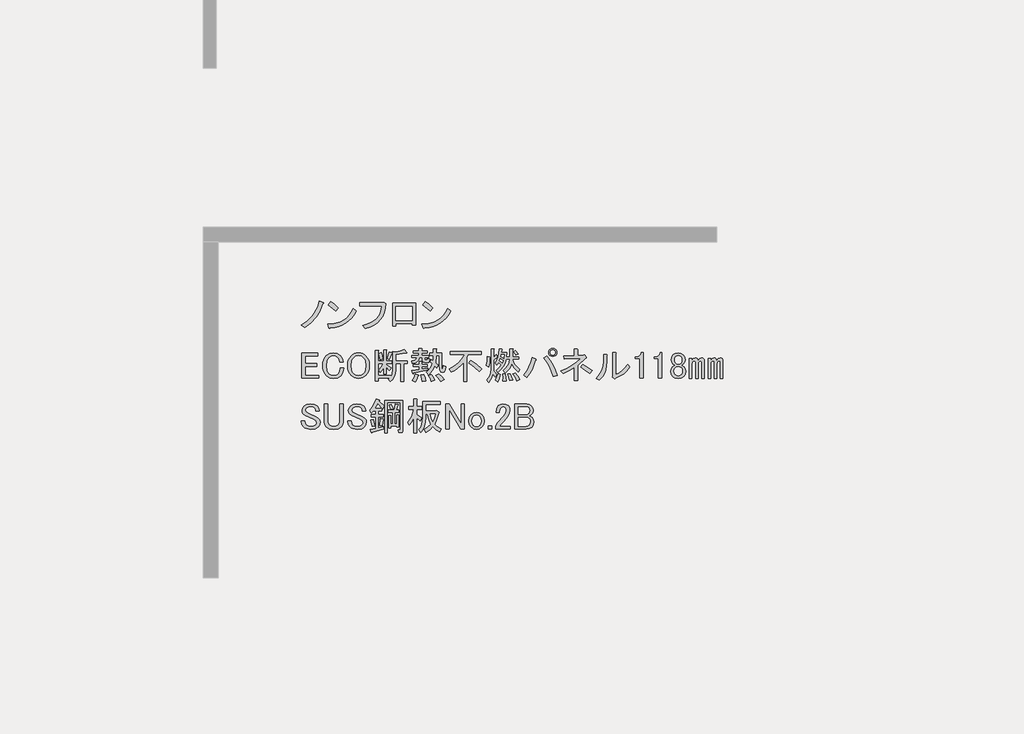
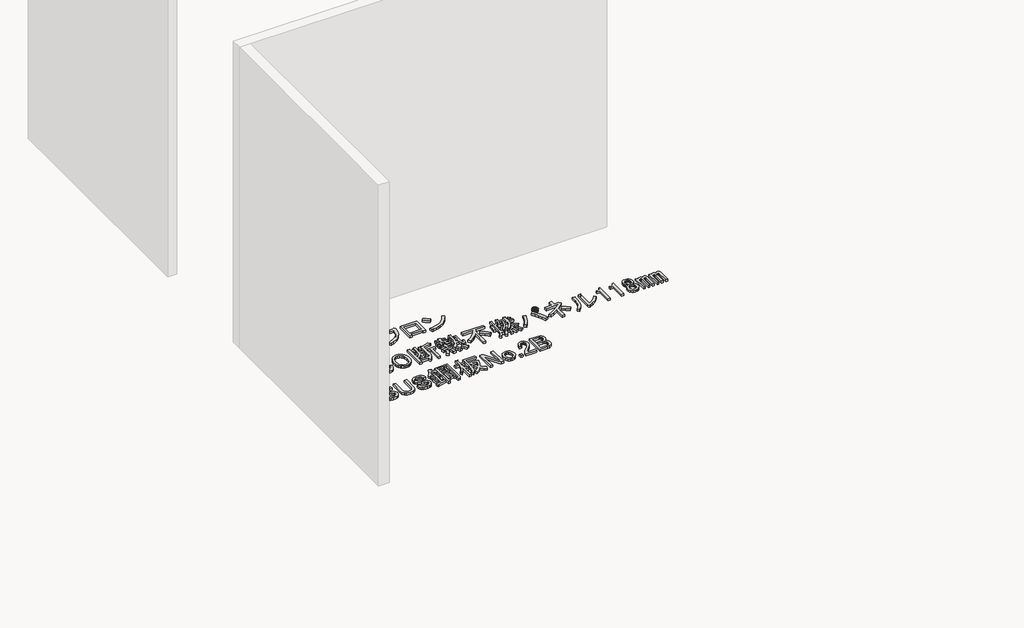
# One storey, part 57 of 117: 1 proxy.
"""IFC4 building model written with IfcOpenShell, lengths in millimetres."""

from ifc_helpers import new_model, si_unit, frame, origin, place, context, project, spatial, polyline, outline, extrude, element, save

model = new_model("IFC4")

# Units and contexts
model_context = context("Model", 3, world=origin())
ifc_project = project(units=[si_unit("LENGTHUNIT", "METRE", prefix="MILLI")], contexts=[model_context])

# Site, building, storey
site = spatial("IfcSite", under=ifc_project)
building = spatial("IfcBuilding", under=site)
storey = spatial("IfcBuildingStorey", under=building, Name="レベル 1", Elevation=500.0)

# Proxy
placement = place(None, origin())
element("IfcBuildingElementProxy", 1, Name="200㎜\u3000MS Pゴシック", ObjectType="200㎜\u3000MS Pゴシック", at=placement, inside=storey, context=model_context, shape_type="SweptSolid", body=[
    extrude(outline(polyline([(40940.1706985, -8603.5496882), (40914.5952502, -8663.3215225), (40886.146156, -8709.2998566), (40844.4782907, -8754.7034615), (40795.3389462, -8792.060858), (40767.7519457, -8770.2211493), (40815.4544673, -8739.7605029), (40855.1107805, -8701.2536481), (40872.4963381, -8677.3305462), (40887.8703435, -8649.2406577), (40901.2327969, -8616.9839827), (40912.5836981, -8580.5605212), (40943.6190736, -8594.3540214), (40946.7800841, -8598.9518548), (40940.1706985, -8603.5496882)])), frame((0.0, 0.0, 500.0), z_axis=(0.0, 0.0, 1.0), x_axis=(1.0, 0.0, 0.0)), (0.0, 0.0, 1.0), 25.0),
    extrude(outline(polyline([(41039.8977052, -8658.7236891), (40981.2753292, -8611.5958967), (41000.8161212, -8587.4572713), (41028.1157571, -8607.2854279), (41061.7374138, -8636.8839804), (41039.8977052, -8658.7236891)])), frame((0.0, 0.0, 500.0), z_axis=(0.0, 0.0, 1.0), x_axis=(1.0, 0.0, 0.0)), (0.0, 0.0, 1.0), 25.0),
    extrude(outline(polyline([(41201.9713328, -8658.7236891), (41185.447869, -8688.465924), (41166.3381239, -8714.4724192), (41144.6420975, -8736.7431748), (41120.3597898, -8755.2781907), (41093.4912008, -8770.077467), (41064.0363306, -8781.1410036), (41031.995179, -8788.4688006), (40997.3677461, -8792.060858), (40991.6204544, -8800.1070664), (40985.8731626, -8794.3597747), (40976.6774958, -8764.4738575), (41012.5082679, -8761.7977748), (41045.2857912, -8755.4937141), (41075.0100658, -8745.5616756), (41101.6810916, -8732.0016591), (41125.2988687, -8714.8136646), (41145.863397, -8693.9976923), (41163.3746766, -8669.553742), (41177.8327074, -8641.4818138), (41201.9713328, -8658.7236891)])), frame((0.0, 0.0, 500.0), z_axis=(0.0, 0.0, 1.0), x_axis=(1.0, 0.0, 0.0)), (0.0, 0.0, 1.0), 25.0),
    extrude(outline(polyline([(41252.7314136, -8773.6695243), (41286.514713, -8763.9889298), (41316.0234641, -8751.6142922), (41341.257667, -8736.5456116), (41362.2173217, -8718.782888), (41378.902428, -8698.3261214), (41391.3129862, -8675.1753118), (41399.4489961, -8649.3304591), (41403.3104577, -8620.7915635), (41230.8917049, -8620.7915635), (41230.8917049, -8595.5034798), (41405.6093744, -8595.5034798), (41421.7017914, -8592.0551047), (41434.3458332, -8603.5496882), (41430.825617, -8640.0449909), (41422.5638851, -8673.0919185), (41409.5606375, -8702.6904711), (41391.8158742, -8728.8406486), (41369.3295952, -8751.542451), (41342.1018005, -8770.7958784), (41310.1324901, -8786.6009308), (41273.421664, -8798.9576081), (41252.7314136, -8773.6695243)])), frame((0.0, 0.0, 500.0), z_axis=(0.0, 0.0, 1.0), x_axis=(1.0, 0.0, 0.0)), (0.0, 0.0, 1.0), 25.0),
    extrude(outline(polyline([(41667.455987, -8772.520066), (41641.0184449, -8772.520066), (41641.0184449, -8759.8760241), (41513.4285679, -8759.8760241), (41513.4285679, -8778.2673577), (41486.9910258, -8778.2673577), (41486.9910258, -8598.9518548), (41667.455987, -8598.9518548), (41667.455987, -8772.520066)]), holes=[polyline([(41513.4285679, -8624.2399386), (41513.4285679, -8734.5879404), (41641.0184449, -8734.5879404), (41641.0184449, -8624.2399386), (41513.4285679, -8624.2399386)])]), frame((0.0, 0.0, 500.0), z_axis=(0.0, 0.0, 1.0), x_axis=(1.0, 0.0, 0.0)), (0.0, 0.0, 1.0), 25.0),
    extrude(outline(polyline([(41943.5099049, -8658.7236891), (41926.9864411, -8688.465924), (41907.876696, -8714.4724192), (41886.1806696, -8736.7431748), (41861.8983619, -8755.2781907), (41835.0297729, -8770.077467), (41805.5749026, -8781.1410036), (41773.5337511, -8788.4688006), (41738.9063182, -8792.060858), (41733.1590264, -8800.1070664), (41727.4117347, -8794.3597747), (41718.2160679, -8764.4738575), (41754.0468399, -8761.7977748), (41786.8243633, -8755.4937141), (41816.5486378, -8745.5616756), (41843.2196637, -8732.0016591), (41866.8374407, -8714.8136646), (41887.4019691, -8693.9976923), (41904.9132486, -8669.553742), (41919.3712795, -8641.4818138), (41943.5099049, -8658.7236891)])), frame((0.0, 0.0, 500.0), z_axis=(0.0, 0.0, 1.0), x_axis=(1.0, 0.0, 0.0)), (0.0, 0.0, 1.0), 25.0),
    extrude(outline(polyline([(41781.4362772, -8658.7236891), (41722.8139013, -8611.5958967), (41742.3546933, -8587.4572713), (41769.6543291, -8607.2854279), (41803.2759859, -8636.8839804), (41781.4362772, -8658.7236891)])), frame((0.0, 0.0, 500.0), z_axis=(0.0, 0.0, 1.0), x_axis=(1.0, 0.0, 0.0)), (0.0, 0.0, 1.0), 25.0),
    extrude(outline(polyline([(40773.4992375, -8992.0551047), (40899.9396562, -8992.0551047), (40899.9396562, -9013.8948134), (40799.9367796, -9013.8948134), (40799.9367796, -9074.816106), (40893.0429061, -9074.816106), (40893.0429061, -9096.6558147), (40799.9367796, -9096.6558147), (40799.9367796, -9166.7727742), (40905.686948, -9166.7727742), (40905.686948, -9188.6124829), (40773.4992375, -9188.6124829), (40773.4992375, -8992.0551047)])), frame((0.0, 0.0, 500.0), z_axis=(0.0, 0.0, 1.0), x_axis=(1.0, 0.0, 0.0)), (0.0, 0.0, 1.0), 25.0),
    extrude(outline(polyline([(40937.7798252, -9090.908523), (40939.5758538, -9066.985421), (40944.9639399, -9045.7922827), (40953.9440832, -9027.3291079), (40966.516284, -9011.5958967), (40991.5170031, -8995.2161152), (41022.8397432, -8989.756188), (41053.5877541, -8994.641386), (41076.8642858, -9009.29698), (41092.6693381, -9032.8608762), (41098.7039944, -9062.1720642), (41071.116994, -9062.1720642), (41066.231796, -9040.9070847), (41056.1740354, -9025.3893969), (41040.9437123, -9015.0442717), (41022.8397432, -9011.5958967), (41003.2989512, -9015.6190009), (40986.0570759, -9027.6883136), (40977.0050914, -9039.3984206), (40970.5393882, -9053.8384911), (40965.3668256, -9090.908523), (40970.5393882, -9127.9785548), (40977.0050914, -9142.4186254), (40986.0570759, -9154.1287323), (41002.7242221, -9165.3359513), (41022.8397432, -9169.0716909), (41043.242629, -9165.9106804), (41058.4729521, -9156.427649), (41070.5422648, -9136.8868571), (41074.5653691, -9110.449315), (41102.1523695, -9110.449315), (41095.8303486, -9145.2204301), (41088.7899162, -9159.3731361), (41079.1632025, -9171.3706076), (41068.3151893, -9179.9197041), (41055.3119417, -9186.0262016), (41022.8397432, -9190.9113996), (40991.5170031, -9185.4514724), (40966.516284, -9169.0716909), (40953.9440832, -9153.4103209), (40944.9639399, -9135.1626695), (40939.5758538, -9114.3287369), (40937.7798252, -9090.908523)])), frame((0.0, 0.0, 500.0), z_axis=(0.0, 0.0, 1.0), x_axis=(1.0, 0.0, 0.0)), (0.0, 0.0, 1.0), 25.0),
    extrude(outline(polyline([(41133.1417667, -9089.7590646), (41134.8659542, -9066.9135799), (41140.0385168, -9046.6543764), (41148.6594544, -9028.9814543), (41160.7287671, -9013.8948134), (41173.4446501, -9003.3341648), (41187.4536738, -8995.7908443), (41202.7558381, -8991.2648521), (41219.3511431, -8989.756188), (41235.946448, -8991.2648521), (41251.2486123, -8995.7908443), (41265.257636, -9003.3341648), (41277.973519, -9013.8948134), (41290.0428317, -9028.9814543), (41298.6637694, -9046.6543764), (41303.836332, -9066.9135799), (41305.5605195, -9089.7590646), (41303.836332, -9112.6045494), (41298.6637694, -9132.8637528), (41290.0428317, -9150.536675), (41277.973519, -9165.6233159), (41265.257636, -9176.1839645), (41251.2486123, -9183.7272849), (41235.946448, -9188.2532772), (41219.3511431, -9189.7619413), (41202.7558381, -9188.2532772), (41187.4536738, -9183.7272849), (41173.4446501, -9176.1839645), (41160.7287671, -9165.6233159), (41148.6594544, -9150.536675), (41140.0385168, -9132.8637528), (41134.8659542, -9112.6045494), (41133.1417667, -9089.7590646)]), holes=[polyline([(41219.3511431, -9011.5958967), (41198.6608927, -9015.9063655), (41180.2695591, -9028.837772), (41171.7204626, -9039.9731498), (41165.6139651, -9053.8384911), (41160.7287671, -9089.7590646), (41165.6139651, -9125.6796381), (41171.7204626, -9139.5449795), (41180.2695591, -9150.6803573), (41198.6608927, -9163.6117637), (41219.3511431, -9167.9222326), (41240.0413934, -9163.6117637), (41258.432727, -9150.6803573), (41266.9818235, -9139.5449795), (41273.088321, -9125.6796381), (41277.973519, -9089.7590646), (41273.088321, -9053.8384911), (41266.9818235, -9039.9731498), (41258.432727, -9028.837772), (41240.0413934, -9015.9063655), (41219.3511431, -9011.5958967)])]), frame((0.0, 0.0, 500.0), z_axis=(0.0, 0.0, 1.0), x_axis=(1.0, 0.0, 0.0)), (0.0, 0.0, 1.0), 25.0),
    extrude(outline(polyline([(41444.3691101, -9035.7345221), (41461.6109854, -8982.8594379), (41482.3012357, -8988.6067296), (41484.0254232, -8991.7677401), (41480.002319, -8994.3540214), (41462.7604437, -9042.6312722), (41444.3691101, -9035.7345221)])), frame((0.0, 0.0, 500.0), z_axis=(0.0, 0.0, 1.0), x_axis=(1.0, 0.0, 0.0)), (0.0, 0.0, 1.0), 25.0),
    extrude(outline(polyline([(41598.3965292, -8987.4572713), (41596.6723417, -8992.0551047), (41589.2008624, -8989.756188), (41512.1871528, -9002.4002299), (41512.1871528, -9051.826939), (41604.143821, -9051.826939), (41604.143821, -9073.6666477), (41573.1084455, -9073.6666477), (41573.1084455, -9213.9005666), (41550.1192785, -9213.9005666), (41550.1192785, -9073.6666477), (41512.1871528, -9073.6666477), (41512.1871528, -9123.0933568), (41509.6008716, -9150.8958807), (41501.8420277, -9175.6810764), (41488.9106212, -9197.448944), (41470.8066522, -9216.1994833), (41453.5647769, -9196.6586914), (41463.9099021, -9187.4630245), (41374.2521506, -9187.4630245), (41374.2521506, -9209.3027332), (41351.2629836, -9209.3027332), (41351.2629836, -8970.215396), (41373.1026922, -8970.215396), (41377.9878902, -8972.5143127), (41374.2521506, -8977.1121461), (41374.2521506, -9052.9763974), (41416.7821096, -9052.9763974), (41416.7821096, -8965.6175626), (41435.1734433, -8965.6175626), (41440.0586413, -8967.9164793), (41436.3229016, -8972.5143127), (41436.3229016, -9052.9763974), (41480.002319, -9052.9763974), (41480.002319, -9071.367731), (41436.3229016, -9071.367731), (41436.3229016, -9080.5633978), (41476.5539439, -9107.0009399), (41462.7604437, -9128.8406486), (41436.3229016, -9102.4031065), (41436.3229016, -9155.2781907), (41416.7821096, -9155.2781907), (41416.7821096, -9107.0009399), (41403.5633386, -9126.8290965), (41389.1951092, -9142.6341488), (41376.5510673, -9124.2428152), (41398.390776, -9100.1041898), (41415.6326513, -9071.367731), (41374.2521506, -9071.367731), (41374.2521506, -9165.6233159), (41471.9561105, -9165.6233159), (41471.9561105, -9179.4168161), (41484.887517, -9155.2781907), (41489.1979858, -9121.9438985), (41489.1979858, -8977.1121461), (41511.0376945, -8982.8594379), (41547.2456326, -8975.3879586), (41577.7062789, -8962.1691875), (41598.3965292, -8987.4572713)])), frame((0.0, 0.0, 500.0), z_axis=(0.0, 0.0, 1.0), x_axis=(1.0, 0.0, 0.0)), (0.0, 0.0, 1.0), 25.0),
    extrude(outline(polyline([(41390.3445675, -9043.7807305), (41377.7005257, -8993.2045631), (41397.2413176, -8986.3078129), (41405.0001615, -9010.4464383), (41409.8853595, -9036.8839804), (41390.3445675, -9043.7807305)])), frame((0.0, 0.0, 500.0), z_axis=(0.0, 0.0, 1.0), x_axis=(1.0, 0.0, 0.0)), (0.0, 0.0, 1.0), 25.0),
    extrude(outline(polyline([(41734.0326148, -9159.8760241), (41744.0903754, -9187.17566), (41748.9755734, -9209.3027332), (41720.2391146, -9215.050025), (41717.6528333, -9193.4976809), (41709.8939894, -9163.3243992), (41734.0326148, -9159.8760241)])), frame((0.0, 0.0, 500.0), z_axis=(0.0, 0.0, 1.0), x_axis=(1.0, 0.0, 0.0)), (0.0, 0.0, 1.0), 25.0),
    extrude(outline(polyline([(41790.356074, -9212.7511083), (41782.022501, -9188.0377537), (41768.5163654, -9166.7727742), (41789.2066157, -9158.7265657), (41806.1611264, -9180.2789098), (41817.9430745, -9203.5554415), (41790.356074, -9212.7511083)])), frame((0.0, 0.0, 500.0), z_axis=(0.0, 0.0, 1.0), x_axis=(1.0, 0.0, 0.0)), (0.0, 0.0, 1.0), 25.0),
    extrude(outline(polyline([(41689.2037391, -9164.4738575), (41692.6521141, -9169.3590555), (41686.9048224, -9172.520066), (41677.1344264, -9198.0955143), (41666.214572, -9217.3489417), (41643.225405, -9205.8543582), (41655.8694469, -9182.290462), (41666.214572, -9155.2781907), (41689.2037391, -9164.4738575)])), frame((0.0, 0.0, 500.0), z_axis=(0.0, 0.0, 1.0), x_axis=(1.0, 0.0, 0.0)), (0.0, 0.0, 1.0), 25.0),
    extrude(outline(polyline([(41721.3885729, -9027.6883136), (41696.1004892, -9027.6883136), (41691.5026558, -9045.1457123), (41681.1575306, -9058.4363245), (41665.0651137, -9067.5601502), (41643.225405, -9072.5171893), (41638.6275716, -9052.9763974), (41663.9156553, -9044.3554597), (41671.3871346, -9037.0276627), (41675.4102388, -9027.6883136), (41639.7770299, -9027.6883136), (41639.7770299, -9009.29698), (41693.8015725, -9009.29698), (41693.8015725, -8992.0551047), (41650.1221551, -8992.0551047), (41650.1221551, -8973.6637711), (41693.8015725, -8973.6637711), (41693.8015725, -8955.2724374), (41715.6412812, -8955.2724374), (41720.5264792, -8957.5713541), (41716.7907395, -8962.1691875), (41716.7907395, -8973.6637711), (41759.3206985, -8973.6637711), (41759.3206985, -8992.0551047), (41716.7907395, -8992.0551047), (41716.7907395, -9009.29698), (41769.6658237, -9009.29698), (41769.6658237, -9027.6883136), (41740.9293649, -9027.6883136), (41740.9293649, -9040.3323555), (41742.3661878, -9045.5049181), (41746.6766567, -9047.2291056), (41757.0217818, -9047.2291056), (41760.7575215, -9044.0680951), (41760.4701569, -9034.5850637), (41780.0109489, -9036.8839804), (41777.137303, -9058.4363245), (41771.8210581, -9063.8244106), (41763.9185319, -9065.6204392), (41739.7799066, -9065.6204392), (41725.9864063, -9060.7352412), (41721.3885729, -9046.0796472), (41721.3885729, -9027.6883136)])), frame((0.0, 0.0, 500.0), z_axis=(0.0, 0.0, 1.0), x_axis=(1.0, 0.0, 0.0)), (0.0, 0.0, 1.0), 25.0),
    extrude(outline(polyline([(41852.4268251, -9010.4464383), (41830.5871164, -9010.4464383), (41825.989283, -9067.9193559), (41845.5300749, -9086.3106896), (41835.1849498, -9108.1503983), (41819.0925328, -9092.0579813), (41799.8391054, -9129.7027424), (41769.6658237, -9162.1749408), (41752.4239484, -9141.4846905), (41767.5105893, -9129.5590601), (41780.585678, -9114.4724192), (41791.6492147, -9096.2247679), (41800.7011992, -9074.816106), (41783.4593239, -9059.8731475), (41791.5055324, -9042.6312722), (41805.2990326, -9052.9763974), (41807.5979493, -9010.4464383), (41780.0109489, -9010.4464383), (41780.0109489, -8992.0551047), (41807.5979493, -8992.0551047), (41807.5979493, -8957.5713541), (41829.437658, -8957.5713541), (41834.322856, -8959.8702708), (41830.5871164, -8964.4681043), (41830.5871164, -8992.0551047), (41871.967617, -8992.0551047), (41871.967617, -9088.6096063), (41875.4159921, -9112.7482317), (41878.6488437, -9114.7597838), (41881.4506484, -9111.5987733), (41885.7611173, -9089.7590646), (41905.3019092, -9096.6558147), (41900.775917, -9123.4525626), (41892.945232, -9139.4731384), (41881.8098542, -9144.7175421), (41867.3697836, -9139.1857738), (41860.8322393, -9131.8579768), (41856.1625647, -9120.219711), (41852.4268251, -9084.0117729), (41852.4268251, -9010.4464383)])), frame((0.0, 0.0, 500.0), z_axis=(0.0, 0.0, 1.0), x_axis=(1.0, 0.0, 0.0)), (0.0, 0.0, 1.0), 25.0),
    extrude(outline(polyline([(41651.2716134, -9149.5308989), (41649.2600613, -9154.4160969), (41645.5243217, -9152.979274), (41639.7770299, -9128.8406486), (41694.9510308, -9120.7944401), (41694.9510308, -9097.8052731), (41651.2716134, -9097.8052731), (41651.2716134, -9079.4139395), (41694.9510308, -9079.4139395), (41694.9510308, -9056.4247724), (41713.3423645, -9056.4247724), (41718.2275625, -9058.7236891), (41714.4918228, -9063.3215225), (41714.4918228, -9079.4139395), (41759.3206985, -9079.4139395), (41759.3206985, -9097.8052731), (41714.4918228, -9097.8052731), (41714.4918228, -9117.3460651), (41765.0679903, -9108.1503983), (41765.0679903, -9124.2428152), (41651.2716134, -9149.5308989)])), frame((0.0, 0.0, 500.0), z_axis=(0.0, 0.0, 1.0), x_axis=(1.0, 0.0, 0.0)), (0.0, 0.0, 1.0), 25.0),
    extrude(outline(polyline([(41848.97845, -9154.1287323), (41873.6918046, -9175.3937119), (41892.6578674, -9200.1070664), (41866.2203253, -9215.050025), (41846.9668979, -9185.4514724), (41828.2881997, -9165.6233159), (41848.97845, -9154.1287323)])), frame((0.0, 0.0, 500.0), z_axis=(0.0, 0.0, 1.0), x_axis=(1.0, 0.0, 0.0)), (0.0, 0.0, 1.0), 25.0),
    extrude(outline(polyline([(42167.3784135, -9138.0363154), (42128.2968295, -9099.8168252), (42086.9163289, -9070.2182726), (42103.0087458, -9049.5280223), (42146.6881632, -9077.6897519), (42188.0686638, -9116.1966067), (42167.3784135, -9138.0363154)])), frame((0.0, 0.0, 500.0), z_axis=(0.0, 0.0, 1.0), x_axis=(1.0, 0.0, 0.0)), (0.0, 0.0, 1.0), 25.0),
    extrude(outline(polyline([(41940.9351182, -8977.1121461), (42182.3213721, -8977.1121461), (42182.3213721, -9002.4002299), (42082.3184955, -9002.4002299), (42071.9733703, -9026.5388553), (42071.9733703, -9212.7511083), (42045.5358282, -9212.7511083), (42045.5358282, -9065.6204392), (42024.7018956, -9088.8969709), (42001.2816816, -9109.2998566), (41975.2751864, -9126.8290965), (41946.6824099, -9141.4846905), (41930.589993, -9115.0471484), (41970.174465, -9094.6442626), (42003.8679629, -9069.0688143), (42031.6704868, -9038.3208034), (42053.5820367, -9002.4002299), (41940.9351182, -9002.4002299), (41940.9351182, -8977.1121461)])), frame((0.0, 0.0, 500.0), z_axis=(0.0, 0.0, 1.0), x_axis=(1.0, 0.0, 0.0)), (0.0, 0.0, 1.0), 25.0),
    extrude(outline(polyline([(42354.7401249, -9211.6016499), (42355.3148541, -9184.5893787), (42352.4412082, -9156.427649), (42371.9820002, -9155.2781907), (42378.3040211, -9181.4283682), (42378.8787503, -9209.3027332), (42354.7401249, -9211.6016499)])), frame((0.0, 0.0, 500.0), z_axis=(0.0, 0.0, 1.0), x_axis=(1.0, 0.0, 0.0)), (0.0, 0.0, 1.0), 25.0),
    extrude(outline(polyline([(42335.1993329, -9159.8760241), (42326.5783953, -9190.3366704), (42312.2101659, -9217.3489417), (42292.6693739, -9204.7048998), (42306.7502387, -9179.9915453), (42316.8079993, -9151.8298156), (42335.1993329, -9159.8760241)])), frame((0.0, 0.0, 500.0), z_axis=(0.0, 0.0, 1.0), x_axis=(1.0, 0.0, 0.0)), (0.0, 0.0, 1.0), 25.0),
    extrude(outline(polyline([(42250.1394149, -9021.9410219), (42254.7372483, -9024.2399386), (42250.1394149, -9028.837772), (42248.9899565, -9068.4940851), (42243.2426647, -9102.4031065), (42224.8513311, -9089.7590646), (42230.5986229, -9055.2753141), (42231.7480812, -9018.4926468), (42250.1394149, -9021.9410219)])), frame((0.0, 0.0, 500.0), z_axis=(0.0, 0.0, 1.0), x_axis=(1.0, 0.0, 0.0)), (0.0, 0.0, 1.0), 25.0),
    extrude(outline(polyline([(42301.8650407, -9003.5496882), (42311.0607075, -9020.7915635), (42312.4975305, -9026.8262199), (42307.6123325, -9026.5388553), (42281.1747904, -9047.2291056), (42281.1747904, -9131.1395653), (42294.9682906, -9143.4962426), (42306.4628741, -9159.8760241), (42293.8188322, -9180.5662744), (42275.4274986, -9155.2781907), (42263.6455505, -9191.1987642), (42242.0932064, -9220.7973168), (42227.1502478, -9202.4059831), (42242.2368887, -9183.6554438), (42253.0130607, -9163.0370346), (42259.478764, -9140.5507556), (42261.6339984, -9116.1966067), (42261.6339984, -8958.7208125), (42280.025332, -8958.7208125), (42284.91053, -8961.0197292), (42281.1747904, -8965.6175626), (42281.1747904, -9024.2399386), (42301.8650407, -9003.5496882)])), frame((0.0, 0.0, 500.0), z_axis=(0.0, 0.0, 1.0), x_axis=(1.0, 0.0, 0.0)), (0.0, 0.0, 1.0), 25.0),
    extrude(outline(polyline([(42452.4440848, -8972.5143127), (42474.2837935, -8996.6529381), (42457.0419182, -9008.1475216), (42450.4325327, -8996.6529381), (42437.5011262, -8982.8594379), (42452.4440848, -8972.5143127)])), frame((0.0, 0.0, 500.0), z_axis=(0.0, 0.0, 1.0), x_axis=(1.0, 0.0, 0.0)), (0.0, 0.0, 1.0), 25.0),
    extrude(outline(polyline([(42462.78921, -9209.3027332), (42449.5704389, -9181.1410036), (42432.9032928, -9156.427649), (42451.2946265, -9148.3814406), (42470.2606893, -9171.3706076), (42485.778377, -9198.9576081), (42462.78921, -9209.3027332)])), frame((0.0, 0.0, 500.0), z_axis=(0.0, 0.0, 1.0), x_axis=(1.0, 0.0, 0.0)), (0.0, 0.0, 1.0), 25.0),
    extrude(outline(polyline([(42413.3625008, -9154.1287323), (42431.7538345, -9203.5554415), (42407.6152091, -9208.1532749), (42393.8217089, -9157.5771074), (42413.3625008, -9154.1287323)])), frame((0.0, 0.0, 500.0), z_axis=(0.0, 0.0, 1.0), x_axis=(1.0, 0.0, 0.0)), (0.0, 0.0, 1.0), 25.0),
    extrude(outline(polyline([(42474.2837935, -9139.1857738), (42443.5357826, -9108.7251274), (42422.5581677, -9074.816106), (42414.1527535, -9096.9431793), (42402.7300111, -9116.1966067), (42388.2899405, -9132.5763882), (42370.8325418, -9146.0825239), (42357.0390416, -9127.6911902), (42377.8729742, -9108.7969686), (42393.2469797, -9087.7475125), (42403.161058, -9064.542822), (42407.6152091, -9039.1828971), (42378.8787503, -9039.1828971), (42370.904383, -9069.7872258), (42357.3264062, -9097.2305439), (42338.1448199, -9121.5128516), (42313.3596242, -9142.6341488), (42300.7155823, -9126.5417319), (42326.5783953, -9104.9893878), (42342.096083, -9084.0117729), (42320.2563743, -9064.4709809), (42306.4628741, -9085.1612312), (42292.6693739, -9070.2182726), (42305.0978923, -9051.1803687), (42314.7964472, -9026.2514907), (42321.7650384, -8995.4316386), (42326.0036661, -8958.7208125), (42346.6939164, -8961.0197292), (42350.1422915, -8963.6060105), (42344.3949997, -8966.767021), (42342.096083, -8985.1583546), (42385.7755004, -8985.1583546), (42382.3271253, -9020.7915635), (42407.6152091, -9020.7915635), (42407.6152091, -8958.7208125), (42429.4549178, -8958.7208125), (42434.3401158, -8961.0197292), (42430.6043761, -8965.6175626), (42430.6043761, -9020.7915635), (42480.0310853, -9020.7915635), (42480.0310853, -9039.1828971), (42430.6043761, -9039.1828971), (42437.1419205, -9060.9507647), (42448.7083452, -9081.4254916), (42465.3036501, -9100.6070778), (42486.9278354, -9118.4955234), (42474.2837935, -9139.1857738)]), holes=[polyline([(42350.1422915, -9069.0688143), (42357.0390416, -9049.5280223), (42331.7509579, -9033.4356054), (42326.0036661, -9050.6774807), (42350.1422915, -9069.0688143)]), polyline([(42339.7971663, -9003.5496882), (42336.3487913, -9019.6421052), (42361.636875, -9033.4356054), (42366.2347084, -9003.5496882), (42339.7971663, -9003.5496882)])]), frame((0.0, 0.0, 500.0), z_axis=(0.0, 0.0, 1.0), x_axis=(1.0, 0.0, 0.0)), (0.0, 0.0, 1.0), 25.0),
    extrude(outline(polyline([(42699.5776305, -9012.745355), (42726.230696, -9049.4561812), (42748.7169751, -9087.1727833), (42767.0364675, -9125.8951616), (42781.1891735, -9165.6233159), (42750.153798, -9175.968441), (42734.7079514, -9132.8637528), (42717.1068704, -9094.356898), (42697.3505549, -9060.4478766), (42675.4390051, -9031.1366887), (42699.5776305, -9012.745355)])), frame((0.0, 0.0, 500.0), z_axis=(0.0, 0.0, 1.0), x_axis=(1.0, 0.0, 0.0)), (0.0, 0.0, 1.0), 25.0),
    extrude(outline(polyline([(42612.2187958, -9039.1828971), (42616.2419, -9044.6428243), (42609.919879, -9049.5280223), (42597.9942486, -9084.9457078), (42582.9076078, -9118.782888), (42564.6599564, -9151.039563), (42543.2512946, -9181.7157328), (42516.8137525, -9164.4738575), (42540.018443, -9133.0074351), (42559.056347, -9099.5294606), (42573.9274644, -9064.039934), (42584.6317953, -9026.5388553), (42612.2187958, -9039.1828971)])), frame((0.0, 0.0, 500.0), z_axis=(0.0, 0.0, 1.0), x_axis=(1.0, 0.0, 0.0)), (0.0, 0.0, 1.0), 25.0),
    extrude(outline(polyline([(42745.5559646, -9018.4926468), (42732.9119227, -9016.1937301), (42722.5667975, -9009.29698), (42715.6700474, -8998.9518548), (42713.3711307, -8986.3078129), (42715.6700474, -8973.6637711), (42722.5667975, -8963.3186459), (42732.9119227, -8956.4218958), (42745.5559646, -8954.1229791), (42758.2000065, -8956.4218958), (42768.5451316, -8963.3186459), (42775.4418817, -8973.6637711), (42777.7407984, -8986.3078129), (42775.4418817, -8998.9518548), (42768.5451316, -9009.29698), (42758.2000065, -9016.1937301), (42745.5559646, -9018.4926468)]), holes=[polyline([(42745.5559646, -9006.9980633), (42753.8895376, -9005.5612403), (42760.4989232, -9001.2507715), (42764.809392, -8994.641386), (42766.2462149, -8986.3078129), (42764.809392, -8977.9742399), (42760.4989232, -8971.3648544), (42753.8895376, -8967.0543855), (42745.5559646, -8965.6175626), (42737.2223915, -8967.0543855), (42730.613006, -8971.3648544), (42726.3025372, -8977.9742399), (42724.8657143, -8986.3078129), (42726.3025372, -8994.641386), (42730.613006, -9001.2507715), (42737.2223915, -9005.5612403), (42745.5559646, -9006.9980633)])]), frame((0.0, 0.0, 500.0), z_axis=(0.0, 0.0, 1.0), x_axis=(1.0, 0.0, 0.0)), (0.0, 0.0, 1.0), 25.0),
    extrude(outline(polyline([(42989.2411352, -9008.1475216), (42996.1378853, -9005.8486049), (43008.7819272, -9023.0904802), (43009.9313856, -9029.1251366), (43004.1840938, -9031.1366887), (42940.9638844, -9087.4601479), (42940.9638844, -9208.1532749), (42914.5263423, -9208.1532749), (42914.5263423, -9105.8514816), (42874.2953, -9129.9901069), (42829.4664243, -9151.8298156), (42809.9256323, -9131.1395653), (42855.4729195, -9111.6706145), (42896.7097379, -9088.8969709), (42933.6360874, -9062.8186345), (42966.2519682, -9033.4356054), (42836.3631744, -9039.1828971), (42832.9147993, -9013.8948134), (42914.5263423, -9011.5958967), (42914.5263423, -8959.8702708), (42937.5155094, -8959.8702708), (42943.5501657, -8963.3186459), (42940.9638844, -8969.0659377), (42940.9638844, -9010.4464383), (42989.2411352, -9008.1475216)])), frame((0.0, 0.0, 500.0), z_axis=(0.0, 0.0, 1.0), x_axis=(1.0, 0.0, 0.0)), (0.0, 0.0, 1.0), 25.0),
    extrude(outline(polyline([(43035.2194693, -9151.8298156), (42998.1494375, -9122.5186277), (42965.1025098, -9101.2536481), (42982.3443851, -9079.4139395), (43021.1386045, -9102.6904711), (43054.7602613, -9128.8406486), (43035.2194693, -9151.8298156)])), frame((0.0, 0.0, 500.0), z_axis=(0.0, 0.0, 1.0), x_axis=(1.0, 0.0, 0.0)), (0.0, 0.0, 1.0), 25.0),
    extrude(outline(polyline([(43242.2139293, -9158.7265657), (43266.9991251, -9146.5135708), (43290.7785447, -9129.4153778), (43313.5521883, -9107.4319868), (43335.3200559, -9080.5633978), (43351.4124728, -9102.4031065), (43328.1359412, -9130.2056304), (43301.9857636, -9153.8413678), (43272.9619403, -9173.3103186), (43241.064471, -9188.6124829), (43231.8688042, -9193.2103163), (43213.4774705, -9179.4168161), (43215.7763872, -9173.6695243), (43215.7763872, -8988.6067296), (43239.9150126, -8988.6067296), (43245.6623044, -8992.0551047), (43242.2139293, -8997.8023965), (43242.2139293, -9158.7265657)])), frame((0.0, 0.0, 500.0), z_axis=(0.0, 0.0, 1.0), x_axis=(1.0, 0.0, 0.0)), (0.0, 0.0, 1.0), 25.0),
    extrude(outline(polyline([(43088.1865102, -9189.7619413), (43113.3309116, -9160.5225944), (43131.2911984, -9127.9785548), (43142.0673704, -9092.1298225), (43145.6594278, -9052.9763974), (43145.6594278, -9001.2507715), (43169.7980532, -9001.2507715), (43175.5453449, -9004.6991466), (43172.0969699, -9010.4464383), (43172.0969699, -9051.826939), (43168.2893891, -9097.5897496), (43156.8666467, -9138.32368), (43137.8287427, -9174.0287301), (43111.1756772, -9204.7048998), (43088.1865102, -9189.7619413)])), frame((0.0, 0.0, 500.0), z_axis=(0.0, 0.0, 1.0), x_axis=(1.0, 0.0, 0.0)), (0.0, 0.0, 1.0), 25.0),
    extrude(outline(polyline([(43430.7250991, -9011.5958967), (43438.7713075, -9000.6760423), (43442.2196826, -8988.6067296), (43456.0131828, -8988.6067296), (43456.0131828, -9187.4630245), (43429.5756407, -9187.4630245), (43429.5756407, -9034.5850637), (43395.0918902, -9034.5850637), (43395.0918902, -9020.7915635), (43405.4370153, -9020.7915635), (43419.8052447, -9018.4926468), (43430.7250991, -9011.5958967)])), frame((0.0, 0.0, 500.0), z_axis=(0.0, 0.0, 1.0), x_axis=(1.0, 0.0, 0.0)), (0.0, 0.0, 1.0), 25.0),
    extrude(outline(polyline([(43577.8557681, -9011.5958967), (43585.9019766, -9000.6760423), (43589.3503517, -8988.6067296), (43603.1438519, -8988.6067296), (43603.1438519, -9187.4630245), (43576.7063098, -9187.4630245), (43576.7063098, -9034.5850637), (43542.2225592, -9034.5850637), (43542.2225592, -9020.7915635), (43552.5676844, -9020.7915635), (43566.9359138, -9018.4926468), (43577.8557681, -9011.5958967)])), frame((0.0, 0.0, 500.0), z_axis=(0.0, 0.0, 1.0), x_axis=(1.0, 0.0, 0.0)), (0.0, 0.0, 1.0), 25.0),
    extrude(outline(polyline([(43677.8586448, -9044.9301889), (43681.881749, -9021.9410219), (43693.9510617, -9003.5496882), (43710.3308432, -8993.2045631), (43731.8831873, -8989.756188), (43753.722896, -8993.4919276), (43770.9647713, -9004.6991466), (43782.1719902, -9022.2283864), (43785.9077299, -9044.9301889), (43782.4593548, -9063.0341579), (43772.1142296, -9078.2644811), (43758.3207294, -9086.3106896), (43758.3207294, -9088.6096063), (43768.37849, -9092.6327105), (43777.8615214, -9100.1041898), (43788.2066466, -9116.1966067), (43791.6550216, -9136.8868571), (43787.6319174, -9158.1518366), (43775.5626047, -9175.968441), (43757.1712711, -9187.17566), (43731.8831873, -9190.9113996), (43706.5951036, -9187.17566), (43688.2037699, -9175.968441), (43676.1344572, -9158.1518366), (43672.111353, -9136.8868571), (43675.5597281, -9116.1966067), (43685.9048532, -9100.1041898), (43695.3878846, -9092.6327105), (43705.4456452, -9088.6096063), (43705.4456452, -9086.3106896), (43690.5026866, -9075.9655644), (43681.0196552, -9061.8846996), (43677.8586448, -9044.9301889)]), holes=[polyline([(43731.8831873, -9010.4464383), (43721.2506976, -9012.4579905), (43712.3423953, -9018.4926468), (43705.4456452, -9029.6998657), (43703.1467285, -9044.9301889), (43705.4456452, -9059.2984183), (43712.3423953, -9070.2182726), (43720.963333, -9076.252929), (43730.733729, -9078.2644811), (43742.8030417, -9076.5402936), (43751.4239793, -9071.367731), (43758.3207294, -9060.1605121), (43760.6196461, -9044.9301889), (43758.3207294, -9029.6998657), (43751.4239793, -9018.4926468), (43742.5156771, -9012.4579905), (43731.8831873, -9010.4464383)]), polyline([(43731.8831873, -9097.8052731), (43718.3770517, -9100.1041898), (43707.7445619, -9107.0009399), (43700.8478118, -9118.2081588), (43698.5488951, -9133.438482), (43701.1351764, -9148.9561698), (43708.8940203, -9161.0254825), (43719.2391454, -9167.9222326), (43731.8831873, -9170.2211493), (43744.5272292, -9167.9222326), (43754.8723544, -9161.0254825), (43762.6311982, -9148.9561698), (43765.2174795, -9133.438482), (43762.6311982, -9117.9207942), (43754.8723544, -9105.8514816), (43745.1019584, -9099.8168252), (43731.8831873, -9097.8052731)])]), frame((0.0, 0.0, 500.0), z_axis=(0.0, 0.0, 1.0), x_axis=(1.0, 0.0, 0.0)), (0.0, 0.0, 1.0), 25.0),
    extrude(outline(polyline([(43839.9322724, -9189.7619413), (43820.3914804, -9189.7619413), (43820.3914804, -9032.286147), (43839.9322724, -9032.286147), (43839.9322724, -9049.5280223), (43852.0015851, -9034.0103346), (43865.2203561, -9028.837772), (43874.416023, -9030.2745949), (43881.3127731, -9034.5850637), (43888.2095232, -9048.378564), (43901.1409296, -9033.72297), (43914.6470653, -9028.837772), (43922.9806383, -9030.2745949), (43929.5900239, -9034.5850637), (43934.7625864, -9043.2060014), (43936.486774, -9055.2753141), (43936.486774, -9189.7619413), (43916.945982, -9189.7619413), (43916.945982, -9065.6204392), (43914.3597007, -9056.1374078), (43906.6008568, -9052.9763974), (43896.2557317, -9057.5742308), (43890.2210753, -9066.1951684), (43888.2095232, -9075.9655644), (43888.2095232, -9189.7619413), (43868.6687312, -9189.7619413), (43868.6687312, -9065.6204392), (43866.0824499, -9056.1374078), (43858.323606, -9052.9763974), (43847.9784809, -9057.5742308), (43841.9438245, -9066.1951684), (43839.9322724, -9075.9655644), (43839.9322724, -9189.7619413)])), frame((0.0, 0.0, 500.0), z_axis=(0.0, 0.0, 1.0), x_axis=(1.0, 0.0, 0.0)), (0.0, 0.0, 1.0), 25.0),
    extrude(outline(polyline([(44061.7777343, -9028.837772), (44070.1113074, -9030.2745949), (44076.7206929, -9034.5850637), (44081.8932555, -9043.2060014), (44083.617443, -9055.2753141), (44083.617443, -9189.7619413), (44064.0766511, -9189.7619413), (44064.0766511, -9065.6204392), (44061.4903698, -9056.1374078), (44053.7315259, -9052.9763974), (44043.3864007, -9057.5742308), (44037.3517444, -9066.1951684), (44035.3401922, -9075.9655644), (44035.3401922, -9189.7619413), (44015.7994003, -9189.7619413), (44015.7994003, -9065.6204392), (44013.213119, -9056.1374078), (44005.4542751, -9052.9763974), (43995.1091499, -9057.5742308), (43989.0744936, -9066.1951684), (43987.0629415, -9075.9655644), (43987.0629415, -9189.7619413), (43967.5221495, -9189.7619413), (43967.5221495, -9032.286147), (43987.0629415, -9032.286147), (43987.0629415, -9049.5280223), (43999.1322542, -9034.0103346), (44012.3510252, -9028.837772), (44021.546692, -9030.2745949), (44028.4434421, -9034.5850637), (44035.3401922, -9048.378564), (44048.2715987, -9033.72297), (44061.7777343, -9028.837772)])), frame((0.0, 0.0, 500.0), z_axis=(0.0, 0.0, 1.0), x_axis=(1.0, 0.0, 0.0)), (0.0, 0.0, 1.0), 25.0),
    extrude(outline(polyline([(40775.7981542, -9443.7807305), (40779.8212584, -9423.3778448), (40791.8905711, -9405.8486049), (40812.2934569, -9393.7792922), (40841.3172803, -9389.756188), (40872.6400204, -9394.3540214), (40895.3418228, -9408.1475216), (40907.4111355, -9425.6767615), (40911.4342397, -9446.0796472), (40884.9966976, -9446.0796472), (40882.6977809, -9433.4356054), (40875.8010308, -9423.0904802), (40862.5822598, -9415.3316363), (40843.616197, -9412.745355), (40823.2133112, -9415.0442717), (40810.2819048, -9421.9410219), (40804.2472484, -9430.5619595), (40802.2356963, -9440.3323555), (40806.8335297, -9455.2753141), (40827.52378, -9466.7698976), (40887.2956143, -9493.2074397), (40904.5374896, -9504.7020232), (40914.020521, -9518.4955234), (40917.1815315, -9534.5879404), (40913.1584273, -9555.8529199), (40901.0891146, -9573.6695243), (40891.1031951, -9581.2128448), (40878.3873121, -9586.6009308), (40844.7656553, -9590.9113996), (40811.1439985, -9585.738837), (40797.5660217, -9579.2731338), (40786.1432794, -9570.2211493), (40774.9360604, -9551.8298156), (40771.2003208, -9526.5417319), (40797.6378629, -9526.5417319), (40799.9367796, -9544.3583363), (40806.8335297, -9556.427649), (40822.9259466, -9565.9106804), (40845.9151137, -9569.0716909), (40866.8927286, -9566.198045), (40881.5483226, -9557.5771074), (40888.4450727, -9548.3814406), (40890.7439894, -9539.1857738), (40889.0198019, -9529.7027424), (40883.8472393, -9521.9438985), (40865.4559057, -9510.449315), (40835.5699885, -9496.6558147), (40802.2356963, -9481.7128562), (40786.1432794, -9471.367731), (40778.3844355, -9459.2984183), (40775.7981542, -9443.7807305)])), frame((0.0, 0.0, 500.0), z_axis=(0.0, 0.0, 1.0), x_axis=(1.0, 0.0, 0.0)), (0.0, 0.0, 1.0), 25.0),
    extrude(outline(polyline([(40951.2054987, -9392.0551047), (40977.6430408, -9392.0551047), (40977.6430408, -9529.9901069), (40980.2293221, -9544.6457009), (40987.988166, -9556.427649), (41003.5058537, -9565.9106804), (41024.7708332, -9569.0716909), (41046.0358128, -9565.9106804), (41061.5535005, -9556.427649), (41069.3123444, -9544.6457009), (41071.8986257, -9529.9901069), (41071.8986257, -9392.0551047), (41098.3361678, -9392.0551047), (41098.3361678, -9531.1395653), (41094.3130635, -9554.1287323), (41082.2437508, -9572.520066), (41071.7549434, -9580.5662744), (41058.6798546, -9586.3135662), (41024.7708332, -9590.9113996), (40990.8618119, -9586.3135662), (40977.7867231, -9580.5662744), (40967.2979156, -9572.520066), (40955.2286029, -9554.1287323), (40951.2054987, -9531.1395653), (40951.2054987, -9392.0551047)])), frame((0.0, 0.0, 500.0), z_axis=(0.0, 0.0, 1.0), x_axis=(1.0, 0.0, 0.0)), (0.0, 0.0, 1.0), 25.0),
    extrude(outline(polyline([(41140.6822135, -9443.7807305), (41144.7053177, -9423.3778448), (41156.7746304, -9405.8486049), (41177.1775161, -9393.7792922), (41206.2013395, -9389.756188), (41237.5240796, -9394.3540214), (41260.2258821, -9408.1475216), (41272.2951948, -9425.6767615), (41276.318299, -9446.0796472), (41249.8807569, -9446.0796472), (41247.5818402, -9433.4356054), (41240.6850901, -9423.0904802), (41227.466319, -9415.3316363), (41208.5002562, -9412.745355), (41188.0973705, -9415.0442717), (41175.165964, -9421.9410219), (41169.1313077, -9430.5619595), (41167.1197556, -9440.3323555), (41171.717589, -9455.2753141), (41192.4078393, -9466.7698976), (41252.1796736, -9493.2074397), (41269.4215489, -9504.7020232), (41278.9045803, -9518.4955234), (41282.0655908, -9534.5879404), (41278.0424865, -9555.8529199), (41265.9731738, -9573.6695243), (41255.9872544, -9581.2128448), (41243.2713714, -9586.6009308), (41209.6497146, -9590.9113996), (41176.0280578, -9585.738837), (41162.450081, -9579.2731338), (41151.0273386, -9570.2211493), (41139.8201197, -9551.8298156), (41136.0843801, -9526.5417319), (41162.5219222, -9526.5417319), (41164.8208389, -9544.3583363), (41171.717589, -9556.427649), (41187.8100059, -9565.9106804), (41210.7991729, -9569.0716909), (41231.7767879, -9566.198045), (41246.4323819, -9557.5771074), (41253.329132, -9548.3814406), (41255.6280487, -9539.1857738), (41253.9038611, -9529.7027424), (41248.7312986, -9521.9438985), (41230.3399649, -9510.449315), (41200.4540478, -9496.6558147), (41167.1197556, -9481.7128562), (41151.0273386, -9471.367731), (41143.2684948, -9459.2984183), (41140.6822135, -9443.7807305)])), frame((0.0, 0.0, 500.0), z_axis=(0.0, 0.0, 1.0), x_axis=(1.0, 0.0, 0.0)), (0.0, 0.0, 1.0), 25.0),
    extrude(outline(polyline([(41478.1631856, -9394.3540214), (41485.3473003, -9409.5843446), (41490.8072275, -9429.9872303), (41473.5653522, -9435.7345221), (41462.0707687, -9398.9518548), (41478.1631856, -9394.3540214)])), frame((0.0, 0.0, 500.0), z_axis=(0.0, 0.0, 1.0), x_axis=(1.0, 0.0, 0.0)), (0.0, 0.0, 1.0), 25.0),
    extrude(outline(polyline([(41531.0382698, -9395.5034798), (41533.6245511, -9398.9518548), (41527.5898948, -9402.4002299), (41514.9458529, -9440.3323555), (41535.6361032, -9440.3323555), (41535.6361032, -9458.7236891), (41504.6007277, -9458.7236891), (41504.6007277, -9547.2319822), (41519.5436863, -9547.2319822), (41519.5436863, -9479.4139395), (41535.6361032, -9479.4139395), (41535.6361032, -9573.6695243), (41519.5436863, -9573.6695243), (41519.5436863, -9565.6233159), (41473.5653522, -9565.6233159), (41473.5653522, -9578.2673577), (41457.4729353, -9578.2673577), (41457.4729353, -9481.7128562), (41473.5653522, -9481.7128562), (41473.5653522, -9547.2319822), (41488.5083108, -9547.2319822), (41488.5083108, -9458.7236891), (41452.8751019, -9458.7236891), (41452.8751019, -9440.3323555), (41498.853436, -9440.3323555), (41509.1985611, -9390.9056463), (41531.0382698, -9395.5034798)])), frame((0.0, 0.0, 500.0), z_axis=(0.0, 0.0, 1.0), x_axis=(1.0, 0.0, 0.0)), (0.0, 0.0, 1.0), 25.0),
    extrude(outline(polyline([(41425.2881014, -9362.1691875), (41565.5220204, -9362.1691875), (41565.5220204, -9602.4059831), (41561.7862807, -9613.6132021), (41550.5790618, -9617.3489417), (41534.4866449, -9617.3489417), (41529.8888115, -9595.509233), (41541.383395, -9595.509233), (41544.83177, -9594.3597747), (41545.9812284, -9590.9113996), (41545.9812284, -9380.5605212), (41444.8288934, -9380.5605212), (41444.8288934, -9619.6478584), (41425.2881014, -9619.6478584), (41425.2881014, -9362.1691875)])), frame((0.0, 0.0, 500.0), z_axis=(0.0, 0.0, 1.0), x_axis=(1.0, 0.0, 0.0)), (0.0, 0.0, 1.0), 25.0),
    extrude(outline(polyline([(41413.7935179, -9510.449315), (41416.3797992, -9513.6103254), (41412.6440596, -9516.1966067), (41404.5978511, -9563.3243992), (41386.2065175, -9561.0254825), (41391.9538092, -9507.0009399), (41413.7935179, -9510.449315)])), frame((0.0, 0.0, 500.0), z_axis=(0.0, 0.0, 1.0), x_axis=(1.0, 0.0, 0.0)), (0.0, 0.0, 1.0), 25.0),
    extrude(outline(polyline([(41336.7798083, -9511.5987733), (41348.2743918, -9563.3243992), (41327.5841415, -9569.0716909), (41316.089558, -9517.3460651), (41336.7798083, -9511.5987733)])), frame((0.0, 0.0, 500.0), z_axis=(0.0, 0.0, 1.0), x_axis=(1.0, 0.0, 0.0)), (0.0, 0.0, 1.0), 25.0),
    extrude(outline(polyline([(41410.3451429, -9431.1366887), (41368.9646422, -9387.4572713), (41347.1249335, -9426.5388553), (41402.2989344, -9426.5388553), (41402.2989344, -9444.9301889), (41375.8613923, -9444.9301889), (41375.8613923, -9473.6666477), (41413.7935179, -9473.6666477), (41413.7935179, -9492.0579813), (41375.8613923, -9492.0579813), (41375.8613923, -9579.4168161), (41414.9429763, -9569.0716909), (41417.241893, -9588.6124829), (41325.2852248, -9613.9005666), (41322.9863081, -9619.6478584), (41318.3884747, -9616.1994833), (41311.4917246, -9593.2103163), (41356.3206003, -9584.0146495), (41356.3206003, -9492.0579813), (41318.3884747, -9492.0579813), (41318.3884747, -9473.6666477), (41356.3206003, -9473.6666477), (41356.3206003, -9444.9301889), (41334.4808916, -9444.9301889), (41319.537933, -9463.3215225), (41306.8938912, -9442.6312722), (41335.0556208, -9404.9865112), (41359.7689754, -9354.1229791), (41381.6086841, -9359.8702708), (41385.0570591, -9363.6060105), (41379.3097674, -9365.6175626), (41378.160309, -9369.0659377), (41422.9891847, -9406.9980633), (41410.3451429, -9431.1366887)])), frame((0.0, 0.0, 500.0), z_axis=(0.0, 0.0, 1.0), x_axis=(1.0, 0.0, 0.0)), (0.0, 0.0, 1.0), 25.0),
    extrude(outline(polyline([(41736.7913148, -9590.9113996), (41765.5277736, -9573.6695243), (41787.3674823, -9551.8298156), (41769.5508779, -9509.8745858), (41759.7804819, -9469.0688143), (41747.13644, -9469.0688143), (41747.13644, -9493.2074397), (41744.693841, -9534.9471461), (41737.366044, -9569.3590555), (41725.153049, -9596.4431679), (41708.054856, -9616.1994833), (41694.2613558, -9593.2103163), (41707.3364446, -9575.8247587), (41716.6757937, -9553.5540032), (41722.2794031, -9526.3980496), (41724.147273, -9494.356898), (41724.147273, -9373.6637711), (41860.9328169, -9373.6637711), (41860.9328169, -9395.5034798), (41747.13644, -9395.5034798), (41747.13644, -9447.2291056), (41826.4490663, -9447.2291056), (41832.1963581, -9441.4818138), (41851.73715, -9455.2753141), (41853.173973, -9459.0110537), (41848.288775, -9463.3215225), (41835.9320977, -9509.8745858), (41817.2533995, -9550.6803573), (41836.2194623, -9569.0716909), (41867.829567, -9587.4630245), (41858.6339002, -9611.6016499), (41830.7595351, -9595.509233), (41802.3104409, -9570.2211493), (41777.8844509, -9594.6471392), (41745.9869817, -9615.050025), (41736.7913148, -9590.9113996)]), holes=[polyline([(41781.6201906, -9469.0688143), (41789.666399, -9502.1157419), (41802.3104409, -9529.9901069), (41814.9544828, -9503.8399294), (41823.0006912, -9469.0688143), (41781.6201906, -9469.0688143)])]), frame((0.0, 0.0, 500.0), z_axis=(0.0, 0.0, 1.0), x_axis=(1.0, 0.0, 0.0)), (0.0, 0.0, 1.0), 25.0),
    extrude(outline(polyline([(41654.0303135, -9619.6478584), (41654.0303135, -9500.1041898), (41636.213709, -9534.3005758), (41617.2476462, -9556.427649), (41605.7530627, -9535.7373987), (41622.994938, -9513.0355963), (41636.7884382, -9488.6096063), (41647.1335634, -9462.4594288), (41654.0303135, -9434.5850637), (41612.6498128, -9434.5850637), (41612.6498128, -9412.745355), (41654.0303135, -9412.745355), (41654.0303135, -9352.9735207), (41675.8700222, -9352.9735207), (41680.7552202, -9355.2724374), (41677.0194805, -9359.8702708), (41677.0194805, -9412.745355), (41714.9516061, -9412.745355), (41714.9516061, -9434.5850637), (41677.0194805, -9434.5850637), (41677.0194805, -9474.816106), (41714.9516061, -9501.2536481), (41704.606481, -9524.2428152), (41677.0194805, -9501.2536481), (41677.0194805, -9619.6478584), (41654.0303135, -9619.6478584)])), frame((0.0, 0.0, 500.0), z_axis=(0.0, 0.0, 1.0), x_axis=(1.0, 0.0, 0.0)), (0.0, 0.0, 1.0), 25.0),
    extrude(outline(polyline([(41904.6122342, -9392.0551047), (41933.348693, -9392.0551047), (42025.3053612, -9547.2319822), (42025.3053612, -9392.0551047), (42051.7429033, -9392.0551047), (42051.7429033, -9588.6124829), (42023.0064445, -9588.6124829), (41931.0497763, -9433.4356054), (41931.0497763, -9588.6124829), (41904.6122342, -9588.6124829), (41904.6122342, -9392.0551047)])), frame((0.0, 0.0, 500.0), z_axis=(0.0, 0.0, 1.0), x_axis=(1.0, 0.0, 0.0)), (0.0, 0.0, 1.0), 25.0),
    extrude(outline(polyline([(42084.8932822, -9524.2428152), (42089.7784802, -9496.9431793), (42104.4340742, -9474.816106), (42123.6875015, -9461.8846996), (42146.9640332, -9457.5742308), (42170.2405648, -9461.8846996), (42189.4939922, -9474.816106), (42204.1495862, -9496.9431793), (42209.0347842, -9524.2428152), (42204.1495862, -9551.542451), (42189.4939922, -9573.6695243), (42170.2405648, -9586.6009308), (42146.9640332, -9590.9113996), (42123.6875015, -9586.6009308), (42104.4340742, -9573.6695243), (42089.7784802, -9551.542451), (42084.8932822, -9524.2428152)]), holes=[polyline([(42146.9640332, -9478.2644811), (42134.3199913, -9480.5633978), (42123.9748661, -9487.4601479), (42113.629741, -9503.5525648), (42110.1813659, -9524.2428152), (42113.3423764, -9544.6457009), (42122.8254078, -9559.8760241), (42134.0326267, -9567.634868), (42146.9640332, -9570.2211493), (42159.8954396, -9567.634868), (42171.1026586, -9559.8760241), (42180.58569, -9544.6457009), (42183.7467004, -9524.2428152), (42180.2983254, -9503.5525648), (42169.9532002, -9487.4601479), (42159.6080751, -9480.5633978), (42146.9640332, -9478.2644811)])]), frame((0.0, 0.0, 500.0), z_axis=(0.0, 0.0, 1.0), x_axis=(1.0, 0.0, 0.0)), (0.0, 0.0, 1.0), 25.0),
    extrude(outline(polyline([(42239.564398, -9563.3243992), (42266.0019401, -9563.3243992), (42266.0019401, -9588.6124829), (42239.564398, -9588.6124829), (42239.564398, -9563.3243992)])), frame((0.0, 0.0, 500.0), z_axis=(0.0, 0.0, 1.0), x_axis=(1.0, 0.0, 0.0)), (0.0, 0.0, 1.0), 25.0),
    extrude(outline(polyline([(42300.7155823, -9458.7236891), (42305.3134158, -9427.400949), (42319.106916, -9404.6991466), (42335.4866975, -9393.4919276), (42354.7401249, -9389.756188), (42377.4419273, -9393.4919276), (42394.9711672, -9404.6991466), (42406.1783861, -9421.3662927), (42409.9141258, -9441.4818138), (42405.603657, -9467.3446268), (42392.6722505, -9489.7590646), (42359.3379583, -9527.6911902), (42340.9466247, -9548.3814406), (42327.1531244, -9566.7727742), (42413.3625008, -9566.7727742), (42413.3625008, -9588.6124829), (42296.1177489, -9588.6124829), (42296.1177489, -9569.0716909), (42302.1524053, -9555.2781907), (42315.6585409, -9536.8868571), (42362.7863334, -9485.1612312), (42377.4419273, -9463.8962517), (42382.3271253, -9441.4818138), (42380.0282086, -9428.837772), (42373.1314585, -9418.4926468), (42365.3726147, -9413.3200842), (42355.8895832, -9411.5958967), (42347.2686456, -9413.3200842), (42339.7971663, -9418.4926468), (42330.3141349, -9434.8724283), (42327.1531244, -9458.7236891), (42300.7155823, -9458.7236891)])), frame((0.0, 0.0, 500.0), z_axis=(0.0, 0.0, 1.0), x_axis=(1.0, 0.0, 0.0)), (0.0, 0.0, 1.0), 25.0),
    extrude(outline(polyline([(42447.8462514, -9392.0551047), (42539.8029196, -9392.0551047), (42560.7805345, -9395.7908443), (42577.7350452, -9406.9980633), (42588.0801704, -9423.0904802), (42591.5285454, -9443.7807305), (42588.3675349, -9460.7352412), (42578.8845035, -9474.816106), (42561.6426283, -9485.1612312), (42583.482337, -9497.8052731), (42593.8274621, -9513.3229608), (42597.2758372, -9532.2890237), (42592.9653684, -9555.5655553), (42580.0339619, -9574.8189827), (42562.7920866, -9585.1641078), (42538.6534612, -9588.6124829), (42447.8462514, -9588.6124829), (42447.8462514, -9392.0551047)]), holes=[polyline([(42474.2837935, -9413.8948134), (42474.2837935, -9474.816106), (42536.3545445, -9474.816106), (42546.9870343, -9472.8045539), (42555.8953365, -9466.7698976), (42562.7920866, -9456.1374078), (42565.0910033, -9442.6312722), (42562.7920866, -9430.8493241), (42555.8953365, -9420.7915635), (42548.1364926, -9415.6190009), (42538.6534612, -9413.8948134), (42474.2837935, -9413.8948134)]), polyline([(42474.2837935, -9496.6558147), (42474.2837935, -9566.7727742), (42532.9061695, -9566.7727742), (42548.1364926, -9564.4738575), (42559.3437116, -9557.5771074), (42567.1025554, -9546.0825239), (42569.6888367, -9532.2890237), (42567.38992, -9517.9207942), (42560.4931699, -9507.0009399), (42548.4238572, -9499.242096), (42532.9061695, -9496.6558147), (42474.2837935, -9496.6558147)])]), frame((0.0, 0.0, 500.0), z_axis=(0.0, 0.0, 1.0), x_axis=(1.0, 0.0, 0.0)), (0.0, 0.0, 1.0), 25.0),
])

save(model, "model.ifc")
